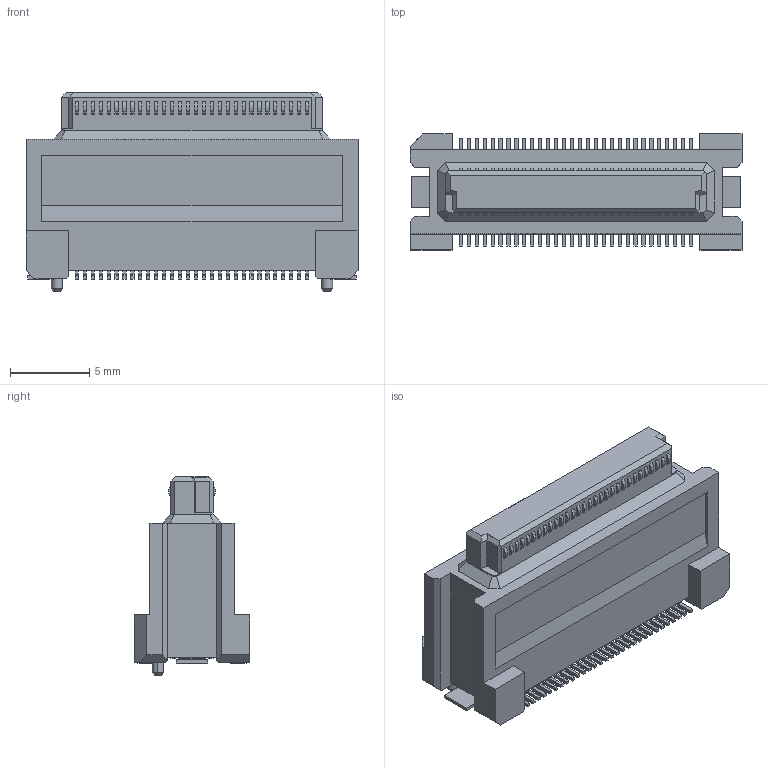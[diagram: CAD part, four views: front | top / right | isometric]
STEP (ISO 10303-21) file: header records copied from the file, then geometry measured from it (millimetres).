
FILE_DESCRIPTION(('Creo Elements/Direct Modeling STEP Export'),'2;1');
FILE_NAME('DY11-060FS-3.stp','2017-11-28T 9:28:40',(''),(''),'Creo Elements/Direct Modeling STEP processor for AP214 (Solid Model)','Creo Elements/Direct Modeling 19.0F 14-Feb-2017 (C) Parametric Technology GmbH','');
FILE_SCHEMA(('AUTOMOTIVE_DESIGN { 1 0 10303 214 1 1 1 1 }'));
Length unit declared in the file: millimetre
Products named in the file (2): DY11-060FS-3
Assembly tree (1 placements, depth 2):
  DY11-060FS-3
    DY11-060FS-3
Bounding box: 20.9 x 7.3 x 12.5 mm (x, y, z)
Volume: 946.8 mm3; surface area: 966.2 mm2
Topology: 1 solids, 1 shells, 940 faces, 2573 edges, 1702 vertices
Faces by surface type: plane 678, cylinder 250, bspline 8, cone 4
Entity records: 30253 total; most frequent: CARTESIAN_POINT 6402, ORIENTED_EDGE 5146, DIRECTION 4675, EDGE_CURVE 2573, VECTOR 2045, LINE 2045, VERTEX_POINT 1702, AXIS2_PLACEMENT_3D 1315
